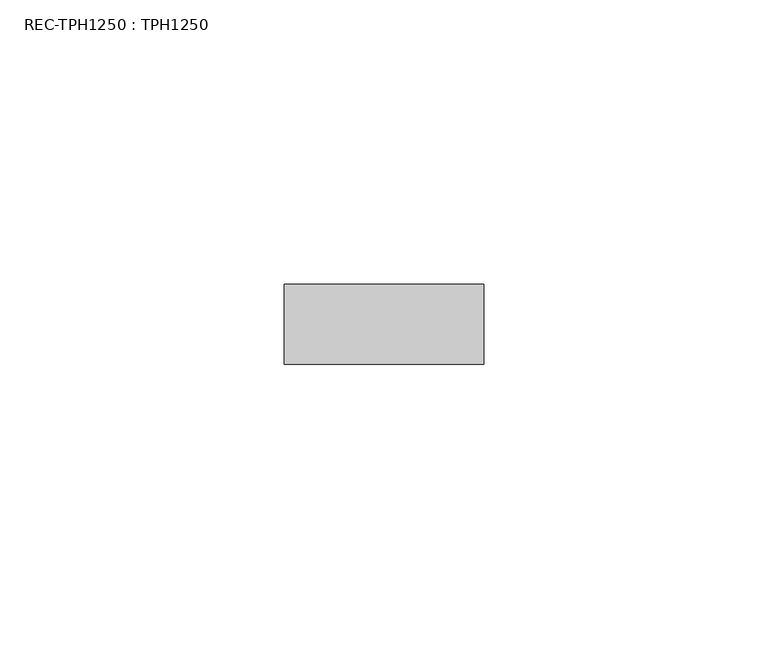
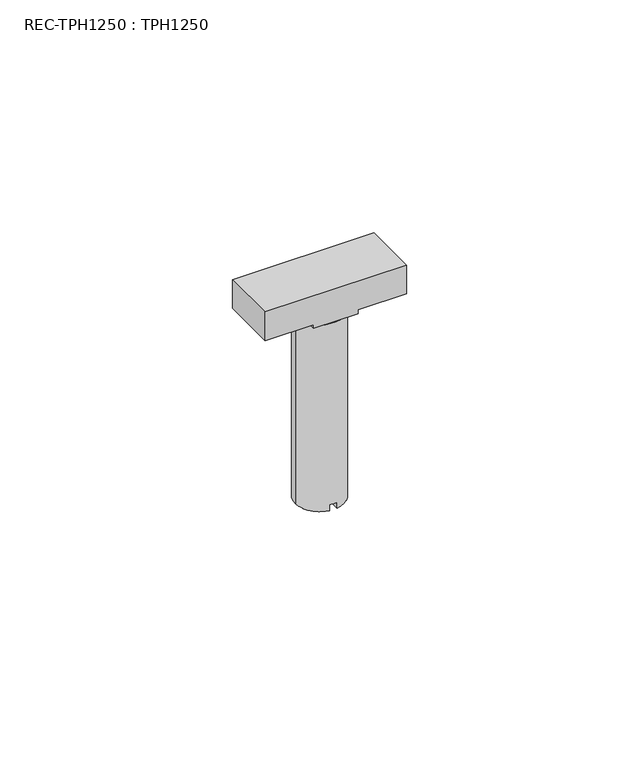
"""IFC4 building model written with IfcOpenShell, lengths in millimetres: fastener geometry, REC-TPH1250 : TPH1250."""

from ifc_helpers import new_model, si_unit, frame, origin, place, context, project, spatial, polyline, circle_curve, outline, extrude, source, transform, mapped, element, save
from ifc_brep_helpers import plane_surface, cylinder_surface, advanced_brep


def rec_tph1250_tph1250_fb22594f(model_context):
    return source(origin(), model_context, "Body", "SolidModel", [
        extrude(outline(polyline([(49.9947035, -5.5124234), (49.9947035, 5.5124234), (50.9947035, 5.5124234), (50.9947035, 17.5), (58.4947035, 17.5), (58.4947035, -17.5), (50.9947035, -17.5), (50.9947035, -5.5124234), (49.9947035, -5.5124234)])), frame((0.0, -7.0, 0.0), z_axis=(0.0, 1.0, 0.0), x_axis=(0.0, 0.0, 1.0)), (0.0, 0.0, 1.0), 14.0),
        extrude(outline(polyline([(2.7960746, 2.8609843), (3.9676474, 0.0325572), (2.7960746, -2.79587), (-0.0323526, -3.9674428), (-2.8607797, -2.79587), (-4.0323526, 0.0325572), (-2.8607797, 2.8609843), (-0.0323526, 4.0325572), (2.7960746, 2.8609843)])), frame((0.0, 0.0, 48.9420113), z_axis=(0.0, 0.0, 1.0), x_axis=(1.0, 0.0, 0.0)), (0.0, 0.0, 1.0), 1.0526922),
        advanced_brep(
        [(-0.8991087, 5.9322511, 0.0), (-0.8991087, -5.9322511, 0.0), (-5.9999579, -0.0224723, 0.0), (5.9999579, 0.0224723, 0.0), (0.8991087, -5.9322511, 0.0), (0.8991087, 5.9322511, 0.0), (5.9999579, 0.0224723, 48.9420113), (-5.9999579, -0.0224723, 48.9420113), (0.8991087, 5.9322511, 1.4985266), (-0.8991087, 5.9322511, 1.4985266), (-0.8991087, -5.9322511, 1.4985266), (0.8991087, -5.9322511, 1.4985266)],
        [
            (0, 1),
            (1, 2, circle_curve(frame((0.0, 0.0, 0.0), z_axis=(0.0, 0.0, -1.0), x_axis=(-0.9999929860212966, -0.003745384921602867, 0.0)), 6.0)),
            (2, 0, circle_curve(frame((0.0, 0.0, 0.0), z_axis=(0.0, 0.0, -1.0), x_axis=(-0.9999929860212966, -0.003745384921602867, 0.0)), 6.0)),
            (3, 4, circle_curve(frame((0.0, 0.0, 0.0), z_axis=(0.0, 0.0, -1.0), x_axis=(-0.9999929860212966, -0.003745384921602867, 0.0)), 6.0)),
            (4, 5),
            (5, 3, circle_curve(frame((0.0, 0.0, 0.0), z_axis=(0.0, 0.0, -1.0), x_axis=(-0.9999929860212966, -0.003745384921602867, 0.0)), 6.0)),
            (6, 7, circle_curve(frame((0.0, 0.0, 48.9420113), z_axis=(0.0, 0.0, 1.0), x_axis=(-0.9999929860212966, -0.003745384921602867, 0.0)), 6.0)),
            (7, 6, circle_curve(frame((0.0, 0.0, 48.9420113), z_axis=(0.0, 0.0, 1.0), x_axis=(-0.9999929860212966, -0.003745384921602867, 0.0)), 6.0)),
            (6, 3),
            (5, 8),
            (8, 9, circle_curve(frame((0.0, 0.0, 1.4985266), z_axis=(0.0, 0.0, 1.0), x_axis=(-0.9999929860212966, -0.003745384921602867, 0.0)), 6.0)),
            (9, 0),
            (2, 7),
            (1, 10),
            (10, 11, circle_curve(frame((0.0, 0.0, 1.4985266), z_axis=(0.0, 0.0, 1.0), x_axis=(-0.9999929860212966, -0.003745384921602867, 0.0)), 6.0)),
            (11, 4),
            (9, 10),
            (8, 11),
        ],
        [
            plane_surface(frame((-5.9999579, -0.0224723, 0.0), z_axis=(0.0, 0.0, -1.0), x_axis=(0.003745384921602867, -0.9999929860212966, 0.0))),
            plane_surface(frame((-5.9999579, -0.0224723, 48.9420113), z_axis=(0.0, 0.0, 1.0), x_axis=(-0.003745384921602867, 0.9999929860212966, 0.0))),
            cylinder_surface(frame((0.0, 0.0, 48.9420113), z_axis=(0.0, 0.0, -1.0), x_axis=(-0.9999929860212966, -0.003745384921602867, 0.0)), 6.0),
            plane_surface(frame((-0.8991087, -7.0, -0.0052965), z_axis=(1.0, 0.0, 0.0), x_axis=(0.0, 1.0, 0.0))),
            plane_surface(frame((-0.8991087, -7.0, 1.4985266), z_axis=(0.0, 0.0, -1.0), x_axis=(0.0, 1.0, 0.0))),
            plane_surface(frame((0.8991087, -7.0, 1.4985266), z_axis=(-1.0, 0.0, 0.0), x_axis=(0.0, 1.0, 0.0))),
        ],
        [
            (0, [[1, 2, 3]]),
            (0, [[4, 5, 6]]),
            (1, [[7, 8]]),
            (2, [[9, -6, 10, 11, 12, -3, 13, -7]]),
            (2, [[-13, -2, 14, 15, 16, -4, -9, -8]]),
            (3, [[-14, -1, -12, 17]]),
            (4, [[-11, 18, -15, -17]]),
            (5, [[-10, -5, -16, -18]]),
        ],
    ),
    ])


if __name__ == "__main__":
    model = new_model("IFC4")
    model_context = context("Model", 3, world=origin())
    ifc_project = project(units=[si_unit("LENGTHUNIT", "METRE", prefix="MILLI")], contexts=[model_context])
    site = spatial("IfcSite", under=ifc_project)
    building = spatial("IfcBuilding", under=site)
    placement = place(None, origin())
    rec_tph1250_tph1250_shape = rec_tph1250_tph1250_fb22594f(model_context)
    element("IfcFastener", 1, ObjectType="REC-TPH1250 : TPH1250", at=placement, inside=building, context=model_context, shape_type="MappedRepresentation", body=[
        mapped(rec_tph1250_tph1250_shape, transform((0.0, 0.0, 0.0), x_axis=(1.0, 0.0, 0.0), y_axis=(0.0, 1.0, 0.0), z_axis=(0.0, 0.0, 1.0))),
    ])
    save(model, "model.ifc")
